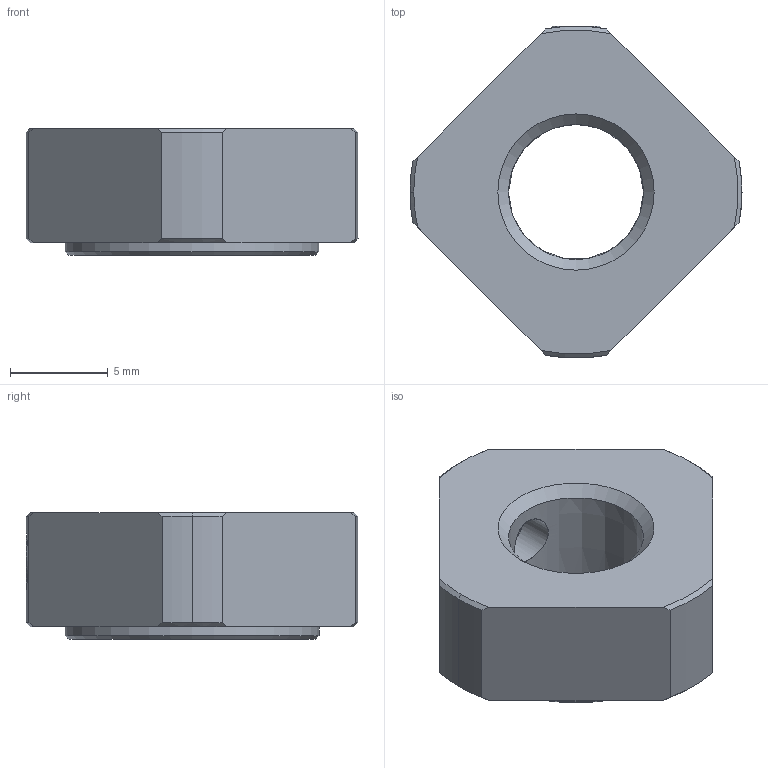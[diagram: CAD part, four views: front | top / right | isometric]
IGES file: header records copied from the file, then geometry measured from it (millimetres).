
Start section: Data from Parasolid IGES Translator 26.0.171, Copyright(c) 2006 Siemens PLM Software. All Rights Reserved.
Global section: file name: RN 8.igs; native system: By Siemens PLM Incorporated; preprocessor: XPlus GENERIC/IGES 26.0.171; author: Noname; organization: Noname; date: 20250611.074059; units: inch
Bounding box: 17 x 16.98 x 6.5 mm (x, y, z)
Surface area: 767.6 mm2 (no closed solid volume)
Topology: 0 solids, 0 shells, 39 faces, 194 edges, 187 vertices
Faces by surface type: revolution 23, extrusion 16
